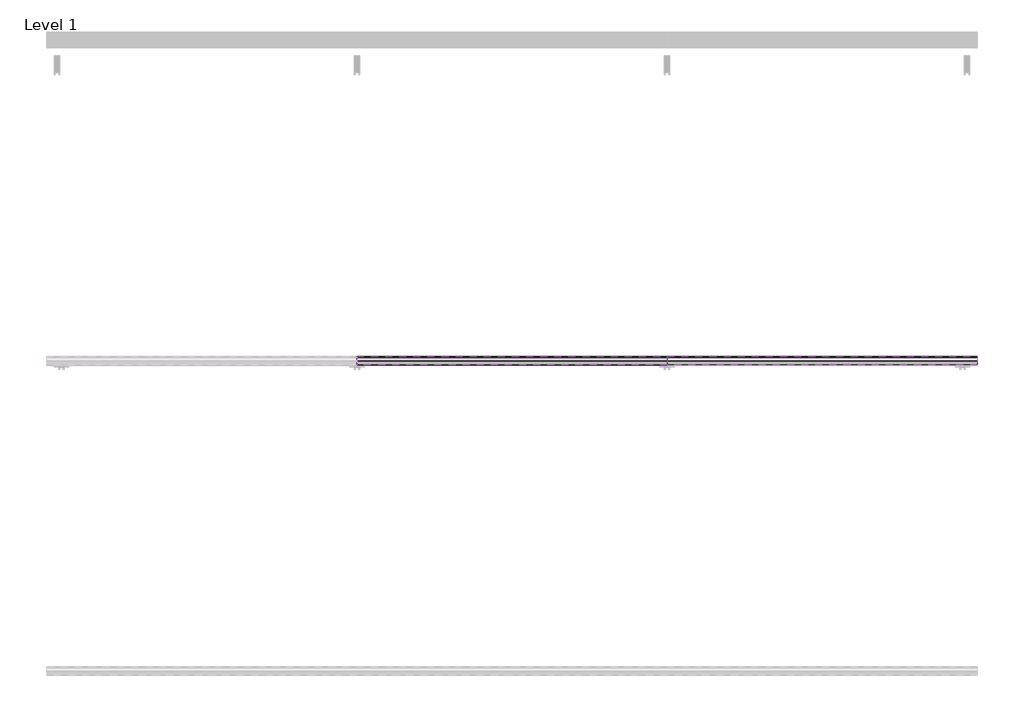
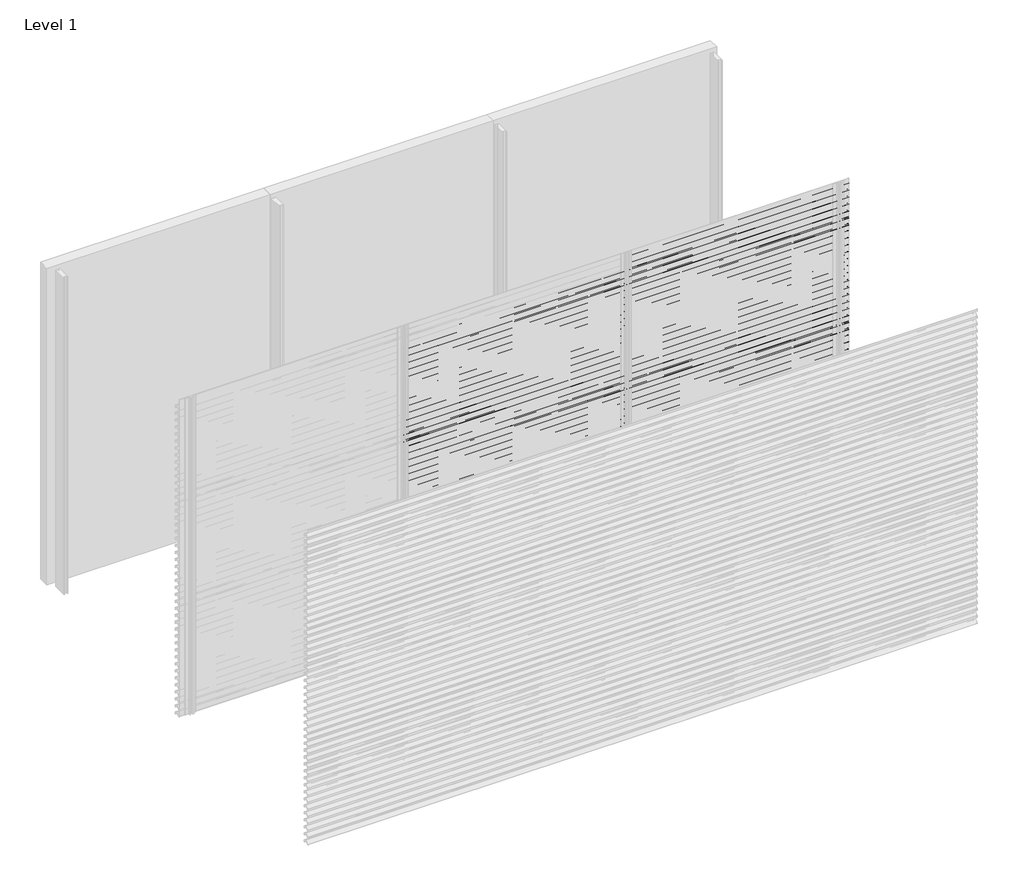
# One storey, part 4 of 27: 70 proxies.
"""IFC4 building model written with IfcOpenShell, lengths in millimetres."""

from ifc_helpers import new_model, si_unit, frame, origin, place, context, project, spatial, polyline, outline, extrude, element, save

model = new_model("IFC4")

# Units and contexts
model_context = context("Model", 3, world=origin())
ifc_project = project(units=[si_unit("LENGTHUNIT", "METRE", prefix="MILLI")], contexts=[model_context])

# Site, building, storey
site = spatial("IfcSite", under=ifc_project)
building = spatial("IfcBuilding", under=site)
storey = spatial("IfcBuildingStorey", under=building, Name="Level 1", Elevation=0.0)

# Proxies
placement = place(None, origin())
element("IfcBuildingElementProxy", 1, Name="Wall Sweeps", at=placement, inside=storey, context=model_context, shape_type="SweptSolid", body=[
    extrude(outline(polyline([(-53943.0, 2781.2), (-53943.0, 2761.5), (-53944.25, 2762.5866084), (-53944.25, 2780.4872415), (-53963.0322086, 2793.6010889), (-53995.1332975, 2761.5), (-53996.0525363, 2762.4192388), (-53964.1148087, 2794.3569665), (-53998.0, 2818.0158044), (-53998.0, 2838.0), (-53996.75, 2838.0), (-53996.75, 2818.7285629), (-53943.0, 2781.2)])), frame((2000.0, 0.0, 0.0), z_axis=(1.0, 0.0, 0.0), x_axis=(0.0, 1.0, 0.0)), (0.0, 0.0, 1.0), 2000.0),
])
element("IfcBuildingElementProxy", 2, Name="Wall Sweeps", at=placement, inside=storey, context=model_context, shape_type="SweptSolid", body=[
    extrude(outline(polyline([(-53943.0, 2715.2), (-53943.0, 2695.5), (-53944.25, 2696.5866084), (-53944.25, 2714.4872415), (-53963.0322086, 2727.6010889), (-53995.1332975, 2695.5), (-53996.0525363, 2696.4192388), (-53964.1148087, 2728.3569665), (-53998.0, 2752.0158044), (-53998.0, 2772.0), (-53996.75, 2772.0), (-53996.75, 2752.7285629), (-53943.0, 2715.2)])), frame((2000.0, 0.0, 0.0), z_axis=(1.0, 0.0, 0.0), x_axis=(0.0, 1.0, 0.0)), (0.0, 0.0, 1.0), 2000.0),
])
element("IfcBuildingElementProxy", 3, Name="Wall Sweeps", at=placement, inside=storey, context=model_context, shape_type="SweptSolid", body=[
    extrude(outline(polyline([(-53943.0, 2649.2), (-53943.0, 2629.5), (-53944.25, 2630.5866084), (-53944.25, 2648.4872415), (-53963.0322086, 2661.6010889), (-53995.1332975, 2629.5), (-53996.0525363, 2630.4192388), (-53964.1148087, 2662.3569665), (-53998.0, 2686.0158044), (-53998.0, 2706.0), (-53996.75, 2706.0), (-53996.75, 2686.7285629), (-53943.0, 2649.2)])), frame((2000.0, 0.0, 0.0), z_axis=(1.0, 0.0, 0.0), x_axis=(0.0, 1.0, 0.0)), (0.0, 0.0, 1.0), 2000.0),
])
element("IfcBuildingElementProxy", 4, Name="Wall Sweeps", at=placement, inside=storey, context=model_context, shape_type="SweptSolid", body=[
    extrude(outline(polyline([(-53943.0, 2583.2), (-53943.0, 2563.5), (-53944.25, 2564.5866084), (-53944.25, 2582.4872415), (-53963.0322086, 2595.6010889), (-53995.1332975, 2563.5), (-53996.0525363, 2564.4192388), (-53964.1148087, 2596.3569665), (-53998.0, 2620.0158044), (-53998.0, 2640.0), (-53996.75, 2640.0), (-53996.75, 2620.7285629), (-53943.0, 2583.2)])), frame((2000.0, 0.0, 0.0), z_axis=(1.0, 0.0, 0.0), x_axis=(0.0, 1.0, 0.0)), (0.0, 0.0, 1.0), 2000.0),
])
element("IfcBuildingElementProxy", 5, Name="Wall Sweeps", at=placement, inside=storey, context=model_context, shape_type="SweptSolid", body=[
    extrude(outline(polyline([(-53943.0, 2517.2), (-53943.0, 2497.5), (-53944.25, 2498.5866084), (-53944.25, 2516.4872415), (-53963.0322086, 2529.6010889), (-53995.1332975, 2497.5), (-53996.0525363, 2498.4192388), (-53964.1148087, 2530.3569665), (-53998.0, 2554.0158044), (-53998.0, 2574.0), (-53996.75, 2574.0), (-53996.75, 2554.7285629), (-53943.0, 2517.2)])), frame((2000.0, 0.0, 0.0), z_axis=(1.0, 0.0, 0.0), x_axis=(0.0, 1.0, 0.0)), (0.0, 0.0, 1.0), 2000.0),
])
element("IfcBuildingElementProxy", 6, Name="Wall Sweeps", at=placement, inside=storey, context=model_context, shape_type="SweptSolid", body=[
    extrude(outline(polyline([(-53943.0, 2451.2), (-53943.0, 2431.5), (-53944.25, 2432.5866084), (-53944.25, 2450.4872415), (-53963.0322086, 2463.6010889), (-53995.1332975, 2431.5), (-53996.0525363, 2432.4192388), (-53964.1148087, 2464.3569665), (-53998.0, 2488.0158044), (-53998.0, 2508.0), (-53996.75, 2508.0), (-53996.75, 2488.7285629), (-53943.0, 2451.2)])), frame((2000.0, 0.0, 0.0), z_axis=(1.0, 0.0, 0.0), x_axis=(0.0, 1.0, 0.0)), (0.0, 0.0, 1.0), 2000.0),
])
element("IfcBuildingElementProxy", 7, Name="Wall Sweeps", at=placement, inside=storey, context=model_context, shape_type="SweptSolid", body=[
    extrude(outline(polyline([(-53943.0, 2385.2), (-53943.0, 2365.5), (-53944.25, 2366.5866084), (-53944.25, 2384.4872415), (-53963.0322086, 2397.6010889), (-53995.1332975, 2365.5), (-53996.0525363, 2366.4192388), (-53964.1148087, 2398.3569665), (-53998.0, 2422.0158044), (-53998.0, 2442.0), (-53996.75, 2442.0), (-53996.75, 2422.7285629), (-53943.0, 2385.2)])), frame((2000.0, 0.0, 0.0), z_axis=(1.0, 0.0, 0.0), x_axis=(0.0, 1.0, 0.0)), (0.0, 0.0, 1.0), 2000.0),
])
element("IfcBuildingElementProxy", 8, Name="Wall Sweeps", at=placement, inside=storey, context=model_context, shape_type="SweptSolid", body=[
    extrude(outline(polyline([(-53943.0, 2319.2), (-53943.0, 2299.5), (-53944.25, 2300.5866084), (-53944.25, 2318.4872415), (-53963.0322086, 2331.6010889), (-53995.1332975, 2299.5), (-53996.0525363, 2300.4192388), (-53964.1148087, 2332.3569665), (-53998.0, 2356.0158044), (-53998.0, 2376.0), (-53996.75, 2376.0), (-53996.75, 2356.7285629), (-53943.0, 2319.2)])), frame((2000.0, 0.0, 0.0), z_axis=(1.0, 0.0, 0.0), x_axis=(0.0, 1.0, 0.0)), (0.0, 0.0, 1.0), 2000.0),
])
element("IfcBuildingElementProxy", 9, Name="Wall Sweeps", at=placement, inside=storey, context=model_context, shape_type="SweptSolid", body=[
    extrude(outline(polyline([(-53943.0, 2253.2), (-53943.0, 2233.5), (-53944.25, 2234.5866084), (-53944.25, 2252.4872415), (-53963.0322086, 2265.6010889), (-53995.1332975, 2233.5), (-53996.0525363, 2234.4192388), (-53964.1148087, 2266.3569665), (-53998.0, 2290.0158044), (-53998.0, 2310.0), (-53996.75, 2310.0), (-53996.75, 2290.7285629), (-53943.0, 2253.2)])), frame((2000.0, 0.0, 0.0), z_axis=(1.0, 0.0, 0.0), x_axis=(0.0, 1.0, 0.0)), (0.0, 0.0, 1.0), 2000.0),
])
element("IfcBuildingElementProxy", 10, Name="Wall Sweeps", at=placement, inside=storey, context=model_context, shape_type="SweptSolid", body=[
    extrude(outline(polyline([(-53943.0, 2187.2), (-53943.0, 2167.5), (-53944.25, 2168.5866084), (-53944.25, 2186.4872415), (-53963.0322086, 2199.6010889), (-53995.1332975, 2167.5), (-53996.0525363, 2168.4192388), (-53964.1148087, 2200.3569665), (-53998.0, 2224.0158044), (-53998.0, 2244.0), (-53996.75, 2244.0), (-53996.75, 2224.7285629), (-53943.0, 2187.2)])), frame((2000.0, 0.0, 0.0), z_axis=(1.0, 0.0, 0.0), x_axis=(0.0, 1.0, 0.0)), (0.0, 0.0, 1.0), 2000.0),
])
element("IfcBuildingElementProxy", 11, Name="Wall Sweeps", at=placement, inside=storey, context=model_context, shape_type="SweptSolid", body=[
    extrude(outline(polyline([(-53943.0, 2121.2), (-53943.0, 2101.5), (-53944.25, 2102.5866084), (-53944.25, 2120.4872415), (-53963.0322086, 2133.6010889), (-53995.1332975, 2101.5), (-53996.0525363, 2102.4192388), (-53964.1148087, 2134.3569665), (-53998.0, 2158.0158044), (-53998.0, 2178.0), (-53996.75, 2178.0), (-53996.75, 2158.7285629), (-53943.0, 2121.2)])), frame((2000.0, 0.0, 0.0), z_axis=(1.0, 0.0, 0.0), x_axis=(0.0, 1.0, 0.0)), (0.0, 0.0, 1.0), 2000.0),
])
element("IfcBuildingElementProxy", 12, Name="Wall Sweeps", at=placement, inside=storey, context=model_context, shape_type="SweptSolid", body=[
    extrude(outline(polyline([(-53943.0, 2055.2), (-53943.0, 2035.5), (-53944.25, 2036.5866084), (-53944.25, 2054.4872415), (-53963.0322086, 2067.6010889), (-53995.1332975, 2035.5), (-53996.0525363, 2036.4192388), (-53964.1148087, 2068.3569665), (-53998.0, 2092.0158044), (-53998.0, 2112.0), (-53996.75, 2112.0), (-53996.75, 2092.7285629), (-53943.0, 2055.2)])), frame((2000.0, 0.0, 0.0), z_axis=(1.0, 0.0, 0.0), x_axis=(0.0, 1.0, 0.0)), (0.0, 0.0, 1.0), 2000.0),
])
element("IfcBuildingElementProxy", 13, Name="Wall Sweeps", at=placement, inside=storey, context=model_context, shape_type="SweptSolid", body=[
    extrude(outline(polyline([(-53943.0, 1989.2), (-53943.0, 1969.5), (-53944.25, 1970.5866084), (-53944.25, 1988.4872415), (-53963.0322086, 2001.6010889), (-53995.1332975, 1969.5), (-53996.0525363, 1970.4192388), (-53964.1148087, 2002.3569665), (-53998.0, 2026.0158044), (-53998.0, 2046.0), (-53996.75, 2046.0), (-53996.75, 2026.7285629), (-53943.0, 1989.2)])), frame((2000.0, 0.0, 0.0), z_axis=(1.0, 0.0, 0.0), x_axis=(0.0, 1.0, 0.0)), (0.0, 0.0, 1.0), 2000.0),
])
element("IfcBuildingElementProxy", 14, Name="Wall Sweeps", at=placement, inside=storey, context=model_context, shape_type="SweptSolid", body=[
    extrude(outline(polyline([(-53943.0, 1923.2), (-53943.0, 1903.5), (-53944.25, 1904.5866084), (-53944.25, 1922.4872415), (-53963.0322086, 1935.6010889), (-53995.1332975, 1903.5), (-53996.0525363, 1904.4192388), (-53964.1148087, 1936.3569665), (-53998.0, 1960.0158044), (-53998.0, 1980.0), (-53996.75, 1980.0), (-53996.75, 1960.7285629), (-53943.0, 1923.2)])), frame((2000.0, 0.0, 0.0), z_axis=(1.0, 0.0, 0.0), x_axis=(0.0, 1.0, 0.0)), (0.0, 0.0, 1.0), 2000.0),
])
element("IfcBuildingElementProxy", 15, Name="Wall Sweeps", at=placement, inside=storey, context=model_context, shape_type="SweptSolid", body=[
    extrude(outline(polyline([(-53943.0, 1857.2), (-53943.0, 1837.5), (-53944.25, 1838.5866084), (-53944.25, 1856.4872415), (-53963.0322086, 1869.6010889), (-53995.1332975, 1837.5), (-53996.0525363, 1838.4192388), (-53964.1148087, 1870.3569665), (-53998.0, 1894.0158044), (-53998.0, 1914.0), (-53996.75, 1914.0), (-53996.75, 1894.7285629), (-53943.0, 1857.2)])), frame((2000.0, 0.0, 0.0), z_axis=(1.0, 0.0, 0.0), x_axis=(0.0, 1.0, 0.0)), (0.0, 0.0, 1.0), 2000.0),
])
element("IfcBuildingElementProxy", 16, Name="Wall Sweeps", at=placement, inside=storey, context=model_context, shape_type="SweptSolid", body=[
    extrude(outline(polyline([(-53943.0, 1791.2), (-53943.0, 1771.5), (-53944.25, 1772.5866084), (-53944.25, 1790.4872415), (-53963.0322086, 1803.6010889), (-53995.1332975, 1771.5), (-53996.0525363, 1772.4192388), (-53964.1148087, 1804.3569665), (-53998.0, 1828.0158044), (-53998.0, 1848.0), (-53996.75, 1848.0), (-53996.75, 1828.7285629), (-53943.0, 1791.2)])), frame((2000.0, 0.0, 0.0), z_axis=(1.0, 0.0, 0.0), x_axis=(0.0, 1.0, 0.0)), (0.0, 0.0, 1.0), 2000.0),
])
element("IfcBuildingElementProxy", 17, Name="Wall Sweeps", at=placement, inside=storey, context=model_context, shape_type="SweptSolid", body=[
    extrude(outline(polyline([(-53943.0, 1725.2), (-53943.0, 1705.5), (-53944.25, 1706.5866084), (-53944.25, 1724.4872415), (-53963.0322086, 1737.6010889), (-53995.1332975, 1705.5), (-53996.0525363, 1706.4192388), (-53964.1148087, 1738.3569665), (-53998.0, 1762.0158044), (-53998.0, 1782.0), (-53996.75, 1782.0), (-53996.75, 1762.7285629), (-53943.0, 1725.2)])), frame((2000.0, 0.0, 0.0), z_axis=(1.0, 0.0, 0.0), x_axis=(0.0, 1.0, 0.0)), (0.0, 0.0, 1.0), 2000.0),
])
element("IfcBuildingElementProxy", 18, Name="Wall Sweeps", at=placement, inside=storey, context=model_context, shape_type="SweptSolid", body=[
    extrude(outline(polyline([(-53943.0, 1659.2), (-53943.0, 1639.5), (-53944.25, 1640.5866084), (-53944.25, 1658.4872415), (-53963.0322086, 1671.6010889), (-53995.1332975, 1639.5), (-53996.0525363, 1640.4192388), (-53964.1148087, 1672.3569665), (-53998.0, 1696.0158044), (-53998.0, 1716.0), (-53996.75, 1716.0), (-53996.75, 1696.7285629), (-53943.0, 1659.2)])), frame((2000.0, 0.0, 0.0), z_axis=(1.0, 0.0, 0.0), x_axis=(0.0, 1.0, 0.0)), (0.0, 0.0, 1.0), 2000.0),
])
element("IfcBuildingElementProxy", 19, Name="Wall Sweeps", at=placement, inside=storey, context=model_context, shape_type="SweptSolid", body=[
    extrude(outline(polyline([(-53943.0, 1593.2), (-53943.0, 1573.5), (-53944.25, 1574.5866084), (-53944.25, 1592.4872415), (-53963.0322086, 1605.6010889), (-53995.1332975, 1573.5), (-53996.0525363, 1574.4192388), (-53964.1148087, 1606.3569665), (-53998.0, 1630.0158044), (-53998.0, 1650.0), (-53996.75, 1650.0), (-53996.75, 1630.7285629), (-53943.0, 1593.2)])), frame((2000.0, 0.0, 0.0), z_axis=(1.0, 0.0, 0.0), x_axis=(0.0, 1.0, 0.0)), (0.0, 0.0, 1.0), 2000.0),
])
element("IfcBuildingElementProxy", 20, Name="Wall Sweeps", at=placement, inside=storey, context=model_context, shape_type="SweptSolid", body=[
    extrude(outline(polyline([(-53943.0, 1527.2), (-53943.0, 1507.5), (-53944.25, 1508.5866084), (-53944.25, 1526.4872415), (-53963.0322086, 1539.6010889), (-53995.1332975, 1507.5), (-53996.0525363, 1508.4192388), (-53964.1148087, 1540.3569665), (-53998.0, 1564.0158044), (-53998.0, 1584.0), (-53996.75, 1584.0), (-53996.75, 1564.7285629), (-53943.0, 1527.2)])), frame((2000.0, 0.0, 0.0), z_axis=(1.0, 0.0, 0.0), x_axis=(0.0, 1.0, 0.0)), (0.0, 0.0, 1.0), 2000.0),
])
element("IfcBuildingElementProxy", 21, Name="Wall Sweeps", at=placement, inside=storey, context=model_context, shape_type="SweptSolid", body=[
    extrude(outline(polyline([(-53943.0, 1461.2), (-53943.0, 1441.5), (-53944.25, 1442.5866084), (-53944.25, 1460.4872415), (-53963.0322086, 1473.6010889), (-53995.1332975, 1441.5), (-53996.0525363, 1442.4192388), (-53964.1148087, 1474.3569665), (-53998.0, 1498.0158044), (-53998.0, 1518.0), (-53996.75, 1518.0), (-53996.75, 1498.7285629), (-53943.0, 1461.2)])), frame((2000.0, 0.0, 0.0), z_axis=(1.0, 0.0, 0.0), x_axis=(0.0, 1.0, 0.0)), (0.0, 0.0, 1.0), 2000.0),
])
element("IfcBuildingElementProxy", 22, Name="Wall Sweeps", at=placement, inside=storey, context=model_context, shape_type="SweptSolid", body=[
    extrude(outline(polyline([(-53943.0, 1395.2), (-53943.0, 1375.5), (-53944.25, 1376.5866084), (-53944.25, 1394.4872415), (-53963.0322086, 1407.6010889), (-53995.1332975, 1375.5), (-53996.0525363, 1376.4192388), (-53964.1148087, 1408.3569665), (-53998.0, 1432.0158044), (-53998.0, 1452.0), (-53996.75, 1452.0), (-53996.75, 1432.7285629), (-53943.0, 1395.2)])), frame((2000.0, 0.0, 0.0), z_axis=(1.0, 0.0, 0.0), x_axis=(0.0, 1.0, 0.0)), (0.0, 0.0, 1.0), 2000.0),
])
element("IfcBuildingElementProxy", 23, Name="Wall Sweeps", at=placement, inside=storey, context=model_context, shape_type="SweptSolid", body=[
    extrude(outline(polyline([(-53943.0, 1329.2), (-53943.0, 1309.5), (-53944.25, 1310.5866084), (-53944.25, 1328.4872415), (-53963.0322086, 1341.6010889), (-53995.1332975, 1309.5), (-53996.0525363, 1310.4192388), (-53964.1148087, 1342.3569665), (-53998.0, 1366.0158044), (-53998.0, 1386.0), (-53996.75, 1386.0), (-53996.75, 1366.7285629), (-53943.0, 1329.2)])), frame((2000.0, 0.0, 0.0), z_axis=(1.0, 0.0, 0.0), x_axis=(0.0, 1.0, 0.0)), (0.0, 0.0, 1.0), 2000.0),
])
element("IfcBuildingElementProxy", 24, Name="Wall Sweeps", at=placement, inside=storey, context=model_context, shape_type="SweptSolid", body=[
    extrude(outline(polyline([(-53943.0, 1263.2), (-53943.0, 1243.5), (-53944.25, 1244.5866084), (-53944.25, 1262.4872415), (-53963.0322086, 1275.6010889), (-53995.1332975, 1243.5), (-53996.0525363, 1244.4192388), (-53964.1148087, 1276.3569665), (-53998.0, 1300.0158044), (-53998.0, 1320.0), (-53996.75, 1320.0), (-53996.75, 1300.7285629), (-53943.0, 1263.2)])), frame((2000.0, 0.0, 0.0), z_axis=(1.0, 0.0, 0.0), x_axis=(0.0, 1.0, 0.0)), (0.0, 0.0, 1.0), 2000.0),
])
element("IfcBuildingElementProxy", 25, Name="Wall Sweeps", at=placement, inside=storey, context=model_context, shape_type="SweptSolid", body=[
    extrude(outline(polyline([(-53943.0, 1197.2), (-53943.0, 1177.5), (-53944.25, 1178.5866084), (-53944.25, 1196.4872415), (-53963.0322086, 1209.6010889), (-53995.1332975, 1177.5), (-53996.0525363, 1178.4192388), (-53964.1148087, 1210.3569665), (-53998.0, 1234.0158044), (-53998.0, 1254.0), (-53996.75, 1254.0), (-53996.75, 1234.7285629), (-53943.0, 1197.2)])), frame((2000.0, 0.0, 0.0), z_axis=(1.0, 0.0, 0.0), x_axis=(0.0, 1.0, 0.0)), (0.0, 0.0, 1.0), 2000.0),
])
element("IfcBuildingElementProxy", 26, Name="Wall Sweeps", at=placement, inside=storey, context=model_context, shape_type="SweptSolid", body=[
    extrude(outline(polyline([(-53943.0, 1131.2), (-53943.0, 1111.5), (-53944.25, 1112.5866084), (-53944.25, 1130.4872415), (-53963.0322086, 1143.6010889), (-53995.1332975, 1111.5), (-53996.0525363, 1112.4192388), (-53964.1148087, 1144.3569665), (-53998.0, 1168.0158044), (-53998.0, 1188.0), (-53996.75, 1188.0), (-53996.75, 1168.7285629), (-53943.0, 1131.2)])), frame((2000.0, 0.0, 0.0), z_axis=(1.0, 0.0, 0.0), x_axis=(0.0, 1.0, 0.0)), (0.0, 0.0, 1.0), 2000.0),
])
element("IfcBuildingElementProxy", 27, Name="Wall Sweeps", at=placement, inside=storey, context=model_context, shape_type="SweptSolid", body=[
    extrude(outline(polyline([(-53943.0, 1065.2), (-53943.0, 1045.5), (-53944.25, 1046.5866084), (-53944.25, 1064.4872415), (-53963.0322086, 1077.6010889), (-53995.1332975, 1045.5), (-53996.0525363, 1046.4192388), (-53964.1148087, 1078.3569665), (-53998.0, 1102.0158044), (-53998.0, 1122.0), (-53996.75, 1122.0), (-53996.75, 1102.7285629), (-53943.0, 1065.2)])), frame((2000.0, 0.0, 0.0), z_axis=(1.0, 0.0, 0.0), x_axis=(0.0, 1.0, 0.0)), (0.0, 0.0, 1.0), 2000.0),
])
element("IfcBuildingElementProxy", 28, Name="Wall Sweeps", at=placement, inside=storey, context=model_context, shape_type="SweptSolid", body=[
    extrude(outline(polyline([(-53943.0, 999.2), (-53943.0, 979.5), (-53944.25, 980.5866084), (-53944.25, 998.4872415), (-53963.0322086, 1011.6010889), (-53995.1332975, 979.5), (-53996.0525363, 980.4192388), (-53964.1148087, 1012.3569665), (-53998.0, 1036.0158044), (-53998.0, 1056.0), (-53996.75, 1056.0), (-53996.75, 1036.7285629), (-53943.0, 999.2)])), frame((2000.0, 0.0, 0.0), z_axis=(1.0, 0.0, 0.0), x_axis=(0.0, 1.0, 0.0)), (0.0, 0.0, 1.0), 2000.0),
])
element("IfcBuildingElementProxy", 29, Name="Wall Sweeps", at=placement, inside=storey, context=model_context, shape_type="SweptSolid", body=[
    extrude(outline(polyline([(-53943.0, 933.2), (-53943.0, 913.5), (-53944.25, 914.5866084), (-53944.25, 932.4872415), (-53963.0322086, 945.6010889), (-53995.1332975, 913.5), (-53996.0525363, 914.4192388), (-53964.1148087, 946.3569665), (-53998.0, 970.0158044), (-53998.0, 990.0), (-53996.75, 990.0), (-53996.75, 970.7285629), (-53943.0, 933.2)])), frame((2000.0, 0.0, 0.0), z_axis=(1.0, 0.0, 0.0), x_axis=(0.0, 1.0, 0.0)), (0.0, 0.0, 1.0), 2000.0),
])
element("IfcBuildingElementProxy", 30, Name="Wall Sweeps", at=placement, inside=storey, context=model_context, shape_type="SweptSolid", body=[
    extrude(outline(polyline([(-53943.0, 867.2), (-53943.0, 847.5), (-53944.25, 848.5866084), (-53944.25, 866.4872415), (-53963.0322086, 879.6010889), (-53995.1332975, 847.5), (-53996.0525363, 848.4192388), (-53964.1148087, 880.3569665), (-53998.0, 904.0158044), (-53998.0, 924.0), (-53996.75, 924.0), (-53996.75, 904.7285629), (-53943.0, 867.2)])), frame((2000.0, 0.0, 0.0), z_axis=(1.0, 0.0, 0.0), x_axis=(0.0, 1.0, 0.0)), (0.0, 0.0, 1.0), 2000.0),
])
element("IfcBuildingElementProxy", 31, Name="Wall Sweeps", at=placement, inside=storey, context=model_context, shape_type="SweptSolid", body=[
    extrude(outline(polyline([(-53943.0, 801.2), (-53943.0, 781.5), (-53944.25, 782.5866084), (-53944.25, 800.4872415), (-53963.0322086, 813.6010889), (-53995.1332975, 781.5), (-53996.0525363, 782.4192388), (-53964.1148087, 814.3569665), (-53998.0, 838.0158044), (-53998.0, 858.0), (-53996.75, 858.0), (-53996.75, 838.7285629), (-53943.0, 801.2)])), frame((2000.0, 0.0, 0.0), z_axis=(1.0, 0.0, 0.0), x_axis=(0.0, 1.0, 0.0)), (0.0, 0.0, 1.0), 2000.0),
])
element("IfcBuildingElementProxy", 32, Name="Wall Sweeps", at=placement, inside=storey, context=model_context, shape_type="SweptSolid", body=[
    extrude(outline(polyline([(-53943.0, 735.2), (-53943.0, 715.5), (-53944.25, 716.5866084), (-53944.25, 734.4872415), (-53963.0322086, 747.6010889), (-53995.1332975, 715.5), (-53996.0525363, 716.4192388), (-53964.1148087, 748.3569665), (-53998.0, 772.0158044), (-53998.0, 792.0), (-53996.75, 792.0), (-53996.75, 772.7285629), (-53943.0, 735.2)])), frame((2000.0, 0.0, 0.0), z_axis=(1.0, 0.0, 0.0), x_axis=(0.0, 1.0, 0.0)), (0.0, 0.0, 1.0), 2000.0),
])
element("IfcBuildingElementProxy", 33, Name="Wall Sweeps", at=placement, inside=storey, context=model_context, shape_type="SweptSolid", body=[
    extrude(outline(polyline([(-53943.0, 669.2), (-53943.0, 649.5), (-53944.25, 650.5866084), (-53944.25, 668.4872415), (-53963.0322086, 681.6010889), (-53995.1332975, 649.5), (-53996.0525363, 650.4192388), (-53964.1148087, 682.3569665), (-53998.0, 706.0158044), (-53998.0, 726.0), (-53996.75, 726.0), (-53996.75, 706.7285629), (-53943.0, 669.2)])), frame((2000.0, 0.0, 0.0), z_axis=(1.0, 0.0, 0.0), x_axis=(0.0, 1.0, 0.0)), (0.0, 0.0, 1.0), 2000.0),
])
element("IfcBuildingElementProxy", 34, Name="Wall Sweeps", at=placement, inside=storey, context=model_context, shape_type="SweptSolid", body=[
    extrude(outline(polyline([(-53943.0, 603.2), (-53943.0, 583.5), (-53944.25, 584.5866084), (-53944.25, 602.4872415), (-53963.0322086, 615.6010889), (-53995.1332975, 583.5), (-53996.0525363, 584.4192388), (-53964.1148087, 616.3569665), (-53998.0, 640.0158044), (-53998.0, 660.0), (-53996.75, 660.0), (-53996.75, 640.7285629), (-53943.0, 603.2)])), frame((2000.0, 0.0, 0.0), z_axis=(1.0, 0.0, 0.0), x_axis=(0.0, 1.0, 0.0)), (0.0, 0.0, 1.0), 2000.0),
])
element("IfcBuildingElementProxy", 35, Name="Wall Sweeps", at=placement, inside=storey, context=model_context, shape_type="SweptSolid", body=[
    extrude(outline(polyline([(-53943.0, 537.2), (-53943.0, 517.5), (-53944.25, 518.5866084), (-53944.25, 536.4872415), (-53963.0322086, 549.6010889), (-53995.1332975, 517.5), (-53996.0525363, 518.4192388), (-53964.1148087, 550.3569665), (-53998.0, 574.0158044), (-53998.0, 594.0), (-53996.75, 594.0), (-53996.75, 574.7285629), (-53943.0, 537.2)])), frame((2000.0, 0.0, 0.0), z_axis=(1.0, 0.0, 0.0), x_axis=(0.0, 1.0, 0.0)), (0.0, 0.0, 1.0), 2000.0),
])
element("IfcBuildingElementProxy", 36, Name="Wall Sweeps", at=placement, inside=storey, context=model_context, shape_type="SweptSolid", body=[
    extrude(outline(polyline([(-53943.0, 471.2), (-53943.0, 451.5), (-53944.25, 452.5866084), (-53944.25, 470.4872415), (-53963.0322086, 483.6010889), (-53995.1332975, 451.5), (-53996.0525363, 452.4192388), (-53964.1148087, 484.3569665), (-53998.0, 508.0158044), (-53998.0, 528.0), (-53996.75, 528.0), (-53996.75, 508.7285629), (-53943.0, 471.2)])), frame((2000.0, 0.0, 0.0), z_axis=(1.0, 0.0, 0.0), x_axis=(0.0, 1.0, 0.0)), (0.0, 0.0, 1.0), 2000.0),
])
element("IfcBuildingElementProxy", 37, Name="Wall Sweeps", at=placement, inside=storey, context=model_context, shape_type="SweptSolid", body=[
    extrude(outline(polyline([(-53943.0, 405.2), (-53943.0, 385.5), (-53944.25, 386.5866084), (-53944.25, 404.4872415), (-53963.0322086, 417.6010889), (-53995.1332975, 385.5), (-53996.0525363, 386.4192388), (-53964.1148087, 418.3569665), (-53998.0, 442.0158044), (-53998.0, 462.0), (-53996.75, 462.0), (-53996.75, 442.7285629), (-53943.0, 405.2)])), frame((2000.0, 0.0, 0.0), z_axis=(1.0, 0.0, 0.0), x_axis=(0.0, 1.0, 0.0)), (0.0, 0.0, 1.0), 2000.0),
])
element("IfcBuildingElementProxy", 38, Name="Wall Sweeps", at=placement, inside=storey, context=model_context, shape_type="SweptSolid", body=[
    extrude(outline(polyline([(-53943.0, 339.2), (-53943.0, 319.5), (-53944.25, 320.5866084), (-53944.25, 338.4872415), (-53963.0322086, 351.6010889), (-53995.1332975, 319.5), (-53996.0525363, 320.4192388), (-53964.1148087, 352.3569665), (-53998.0, 376.0158044), (-53998.0, 396.0), (-53996.75, 396.0), (-53996.75, 376.7285629), (-53943.0, 339.2)])), frame((2000.0, 0.0, 0.0), z_axis=(1.0, 0.0, 0.0), x_axis=(0.0, 1.0, 0.0)), (0.0, 0.0, 1.0), 2000.0),
])
element("IfcBuildingElementProxy", 39, Name="Wall Sweeps", at=placement, inside=storey, context=model_context, shape_type="SweptSolid", body=[
    extrude(outline(polyline([(-53943.0, 273.2), (-53943.0, 253.5), (-53944.25, 254.5866084), (-53944.25, 272.4872415), (-53963.0322086, 285.6010889), (-53995.1332975, 253.5), (-53996.0525363, 254.4192388), (-53964.1148087, 286.3569665), (-53998.0, 310.0158044), (-53998.0, 330.0), (-53996.75, 330.0), (-53996.75, 310.7285629), (-53943.0, 273.2)])), frame((2000.0, 0.0, 0.0), z_axis=(1.0, 0.0, 0.0), x_axis=(0.0, 1.0, 0.0)), (0.0, 0.0, 1.0), 2000.0),
])
element("IfcBuildingElementProxy", 40, Name="Wall Sweeps", at=placement, inside=storey, context=model_context, shape_type="SweptSolid", body=[
    extrude(outline(polyline([(-53943.0, 207.2), (-53943.0, 187.5), (-53944.25, 188.5866084), (-53944.25, 206.4872415), (-53963.0322086, 219.6010889), (-53995.1332975, 187.5), (-53996.0525363, 188.4192388), (-53964.1148087, 220.3569665), (-53998.0, 244.0158044), (-53998.0, 264.0), (-53996.75, 264.0), (-53996.75, 244.7285629), (-53943.0, 207.2)])), frame((2000.0, 0.0, 0.0), z_axis=(1.0, 0.0, 0.0), x_axis=(0.0, 1.0, 0.0)), (0.0, 0.0, 1.0), 2000.0),
])
element("IfcBuildingElementProxy", 41, Name="Wall Sweeps", at=placement, inside=storey, context=model_context, shape_type="SweptSolid", body=[
    extrude(outline(polyline([(-53943.0, 141.2), (-53943.0, 121.5), (-53944.25, 122.5866084), (-53944.25, 140.4872415), (-53963.0322086, 153.6010889), (-53995.1332975, 121.5), (-53996.0525363, 122.4192388), (-53964.1148087, 154.3569665), (-53998.0, 178.0158044), (-53998.0, 198.0), (-53996.75, 198.0), (-53996.75, 178.7285629), (-53943.0, 141.2)])), frame((2000.0, 0.0, 0.0), z_axis=(1.0, 0.0, 0.0), x_axis=(0.0, 1.0, 0.0)), (0.0, 0.0, 1.0), 2000.0),
])
element("IfcBuildingElementProxy", 42, Name="Wall Sweeps", at=placement, inside=storey, context=model_context, shape_type="SweptSolid", body=[
    extrude(outline(polyline([(-53943.0, 75.2), (-53943.0, 55.5), (-53944.25, 56.5866084), (-53944.25, 74.4872415), (-53963.0322086, 87.6010889), (-53995.1332975, 55.5), (-53996.0525363, 56.4192388), (-53964.1148087, 88.3569665), (-53998.0, 112.0158044), (-53998.0, 132.0), (-53996.75, 132.0), (-53996.75, 112.7285629), (-53943.0, 75.2)])), frame((2000.0, 0.0, 0.0), z_axis=(1.0, 0.0, 0.0), x_axis=(0.0, 1.0, 0.0)), (0.0, 0.0, 1.0), 2000.0),
])
element("IfcBuildingElementProxy", 43, Name="Wall Sweeps", at=placement, inside=storey, context=model_context, shape_type="SweptSolid", body=[
    extrude(outline(polyline([(-53943.0, 9.2), (-53943.0, -10.5), (-53944.25, -9.4133916), (-53944.25, 8.4872415), (-53963.0322086, 21.6010889), (-53995.1332975, -10.5), (-53996.0525363, -9.5807612), (-53964.1148087, 22.3569665), (-53998.0, 46.0158044), (-53998.0, 66.0), (-53996.75, 66.0), (-53996.75, 46.7285629), (-53943.0, 9.2)])), frame((2000.0, 0.0, 0.0), z_axis=(1.0, 0.0, 0.0), x_axis=(0.0, 1.0, 0.0)), (0.0, 0.0, 1.0), 2000.0),
])
element("IfcBuildingElementProxy", 44, Name="Wall Sweeps", at=placement, inside=storey, context=model_context, shape_type="SweptSolid", body=[
    extrude(outline(polyline([(-53943.0, 2913.2), (-53943.0, 2893.5), (-53944.25, 2894.5866084), (-53944.25, 2912.4872415), (-53963.0322086, 2925.6010889), (-53995.1332975, 2893.5), (-53996.0525363, 2894.4192388), (-53964.1148087, 2926.3569665), (-53998.0, 2950.0158044), (-53998.0, 2970.0), (-53996.75, 2970.0), (-53996.75, 2950.7285629), (-53943.0, 2913.2)])), frame((4000.0, 0.0, 0.0), z_axis=(1.0, 0.0, 0.0), x_axis=(0.0, 1.0, 0.0)), (0.0, 0.0, 1.0), 2000.0),
])
element("IfcBuildingElementProxy", 45, Name="Wall Sweeps", at=placement, inside=storey, context=model_context, shape_type="SweptSolid", body=[
    extrude(outline(polyline([(-53943.0, 2847.2), (-53943.0, 2827.5), (-53944.25, 2828.5866084), (-53944.25, 2846.4872415), (-53963.0322086, 2859.6010889), (-53995.1332975, 2827.5), (-53996.0525363, 2828.4192388), (-53964.1148087, 2860.3569665), (-53998.0, 2884.0158044), (-53998.0, 2904.0), (-53996.75, 2904.0), (-53996.75, 2884.7285629), (-53943.0, 2847.2)])), frame((4000.0, 0.0, 0.0), z_axis=(1.0, 0.0, 0.0), x_axis=(0.0, 1.0, 0.0)), (0.0, 0.0, 1.0), 2000.0),
])
element("IfcBuildingElementProxy", 46, Name="Wall Sweeps", at=placement, inside=storey, context=model_context, shape_type="SweptSolid", body=[
    extrude(outline(polyline([(-53943.0, 2781.2), (-53943.0, 2761.5), (-53944.25, 2762.5866084), (-53944.25, 2780.4872415), (-53963.0322086, 2793.6010889), (-53995.1332975, 2761.5), (-53996.0525363, 2762.4192388), (-53964.1148087, 2794.3569665), (-53998.0, 2818.0158044), (-53998.0, 2838.0), (-53996.75, 2838.0), (-53996.75, 2818.7285629), (-53943.0, 2781.2)])), frame((4000.0, 0.0, 0.0), z_axis=(1.0, 0.0, 0.0), x_axis=(0.0, 1.0, 0.0)), (0.0, 0.0, 1.0), 2000.0),
])
element("IfcBuildingElementProxy", 47, Name="Wall Sweeps", at=placement, inside=storey, context=model_context, shape_type="SweptSolid", body=[
    extrude(outline(polyline([(-53943.0, 2715.2), (-53943.0, 2695.5), (-53944.25, 2696.5866084), (-53944.25, 2714.4872415), (-53963.0322086, 2727.6010889), (-53995.1332975, 2695.5), (-53996.0525363, 2696.4192388), (-53964.1148087, 2728.3569665), (-53998.0, 2752.0158044), (-53998.0, 2772.0), (-53996.75, 2772.0), (-53996.75, 2752.7285629), (-53943.0, 2715.2)])), frame((4000.0, 0.0, 0.0), z_axis=(1.0, 0.0, 0.0), x_axis=(0.0, 1.0, 0.0)), (0.0, 0.0, 1.0), 2000.0),
])
element("IfcBuildingElementProxy", 48, Name="Wall Sweeps", at=placement, inside=storey, context=model_context, shape_type="SweptSolid", body=[
    extrude(outline(polyline([(-53943.0, 2649.2), (-53943.0, 2629.5), (-53944.25, 2630.5866084), (-53944.25, 2648.4872415), (-53963.0322086, 2661.6010889), (-53995.1332975, 2629.5), (-53996.0525363, 2630.4192388), (-53964.1148087, 2662.3569665), (-53998.0, 2686.0158044), (-53998.0, 2706.0), (-53996.75, 2706.0), (-53996.75, 2686.7285629), (-53943.0, 2649.2)])), frame((4000.0, 0.0, 0.0), z_axis=(1.0, 0.0, 0.0), x_axis=(0.0, 1.0, 0.0)), (0.0, 0.0, 1.0), 2000.0),
])
element("IfcBuildingElementProxy", 49, Name="Wall Sweeps", at=placement, inside=storey, context=model_context, shape_type="SweptSolid", body=[
    extrude(outline(polyline([(-53943.0, 2583.2), (-53943.0, 2563.5), (-53944.25, 2564.5866084), (-53944.25, 2582.4872415), (-53963.0322086, 2595.6010889), (-53995.1332975, 2563.5), (-53996.0525363, 2564.4192388), (-53964.1148087, 2596.3569665), (-53998.0, 2620.0158044), (-53998.0, 2640.0), (-53996.75, 2640.0), (-53996.75, 2620.7285629), (-53943.0, 2583.2)])), frame((4000.0, 0.0, 0.0), z_axis=(1.0, 0.0, 0.0), x_axis=(0.0, 1.0, 0.0)), (0.0, 0.0, 1.0), 2000.0),
])
element("IfcBuildingElementProxy", 50, Name="Wall Sweeps", at=placement, inside=storey, context=model_context, shape_type="SweptSolid", body=[
    extrude(outline(polyline([(-53943.0, 2517.2), (-53943.0, 2497.5), (-53944.25, 2498.5866084), (-53944.25, 2516.4872415), (-53963.0322086, 2529.6010889), (-53995.1332975, 2497.5), (-53996.0525363, 2498.4192388), (-53964.1148087, 2530.3569665), (-53998.0, 2554.0158044), (-53998.0, 2574.0), (-53996.75, 2574.0), (-53996.75, 2554.7285629), (-53943.0, 2517.2)])), frame((4000.0, 0.0, 0.0), z_axis=(1.0, 0.0, 0.0), x_axis=(0.0, 1.0, 0.0)), (0.0, 0.0, 1.0), 2000.0),
])
element("IfcBuildingElementProxy", 51, Name="Wall Sweeps", at=placement, inside=storey, context=model_context, shape_type="SweptSolid", body=[
    extrude(outline(polyline([(-53943.0, 2451.2), (-53943.0, 2431.5), (-53944.25, 2432.5866084), (-53944.25, 2450.4872415), (-53963.0322086, 2463.6010889), (-53995.1332975, 2431.5), (-53996.0525363, 2432.4192388), (-53964.1148087, 2464.3569665), (-53998.0, 2488.0158044), (-53998.0, 2508.0), (-53996.75, 2508.0), (-53996.75, 2488.7285629), (-53943.0, 2451.2)])), frame((4000.0, 0.0, 0.0), z_axis=(1.0, 0.0, 0.0), x_axis=(0.0, 1.0, 0.0)), (0.0, 0.0, 1.0), 2000.0),
])
element("IfcBuildingElementProxy", 52, Name="Wall Sweeps", at=placement, inside=storey, context=model_context, shape_type="SweptSolid", body=[
    extrude(outline(polyline([(-53943.0, 2385.2), (-53943.0, 2365.5), (-53944.25, 2366.5866084), (-53944.25, 2384.4872415), (-53963.0322086, 2397.6010889), (-53995.1332975, 2365.5), (-53996.0525363, 2366.4192388), (-53964.1148087, 2398.3569665), (-53998.0, 2422.0158044), (-53998.0, 2442.0), (-53996.75, 2442.0), (-53996.75, 2422.7285629), (-53943.0, 2385.2)])), frame((4000.0, 0.0, 0.0), z_axis=(1.0, 0.0, 0.0), x_axis=(0.0, 1.0, 0.0)), (0.0, 0.0, 1.0), 2000.0),
])
element("IfcBuildingElementProxy", 53, Name="Wall Sweeps", at=placement, inside=storey, context=model_context, shape_type="SweptSolid", body=[
    extrude(outline(polyline([(-53943.0, 2319.2), (-53943.0, 2299.5), (-53944.25, 2300.5866084), (-53944.25, 2318.4872415), (-53963.0322086, 2331.6010889), (-53995.1332975, 2299.5), (-53996.0525363, 2300.4192388), (-53964.1148087, 2332.3569665), (-53998.0, 2356.0158044), (-53998.0, 2376.0), (-53996.75, 2376.0), (-53996.75, 2356.7285629), (-53943.0, 2319.2)])), frame((4000.0, 0.0, 0.0), z_axis=(1.0, 0.0, 0.0), x_axis=(0.0, 1.0, 0.0)), (0.0, 0.0, 1.0), 2000.0),
])
element("IfcBuildingElementProxy", 54, Name="Wall Sweeps", at=placement, inside=storey, context=model_context, shape_type="SweptSolid", body=[
    extrude(outline(polyline([(-53943.0, 2253.2), (-53943.0, 2233.5), (-53944.25, 2234.5866084), (-53944.25, 2252.4872415), (-53963.0322086, 2265.6010889), (-53995.1332975, 2233.5), (-53996.0525363, 2234.4192388), (-53964.1148087, 2266.3569665), (-53998.0, 2290.0158044), (-53998.0, 2310.0), (-53996.75, 2310.0), (-53996.75, 2290.7285629), (-53943.0, 2253.2)])), frame((4000.0, 0.0, 0.0), z_axis=(1.0, 0.0, 0.0), x_axis=(0.0, 1.0, 0.0)), (0.0, 0.0, 1.0), 2000.0),
])
element("IfcBuildingElementProxy", 55, Name="Wall Sweeps", at=placement, inside=storey, context=model_context, shape_type="SweptSolid", body=[
    extrude(outline(polyline([(-53943.0, 2187.2), (-53943.0, 2167.5), (-53944.25, 2168.5866084), (-53944.25, 2186.4872415), (-53963.0322086, 2199.6010889), (-53995.1332975, 2167.5), (-53996.0525363, 2168.4192388), (-53964.1148087, 2200.3569665), (-53998.0, 2224.0158044), (-53998.0, 2244.0), (-53996.75, 2244.0), (-53996.75, 2224.7285629), (-53943.0, 2187.2)])), frame((4000.0, 0.0, 0.0), z_axis=(1.0, 0.0, 0.0), x_axis=(0.0, 1.0, 0.0)), (0.0, 0.0, 1.0), 2000.0),
])
element("IfcBuildingElementProxy", 56, Name="Wall Sweeps", at=placement, inside=storey, context=model_context, shape_type="SweptSolid", body=[
    extrude(outline(polyline([(-53943.0, 2121.2), (-53943.0, 2101.5), (-53944.25, 2102.5866084), (-53944.25, 2120.4872415), (-53963.0322086, 2133.6010889), (-53995.1332975, 2101.5), (-53996.0525363, 2102.4192388), (-53964.1148087, 2134.3569665), (-53998.0, 2158.0158044), (-53998.0, 2178.0), (-53996.75, 2178.0), (-53996.75, 2158.7285629), (-53943.0, 2121.2)])), frame((4000.0, 0.0, 0.0), z_axis=(1.0, 0.0, 0.0), x_axis=(0.0, 1.0, 0.0)), (0.0, 0.0, 1.0), 2000.0),
])
element("IfcBuildingElementProxy", 57, Name="Wall Sweeps", at=placement, inside=storey, context=model_context, shape_type="SweptSolid", body=[
    extrude(outline(polyline([(-53943.0, 2055.2), (-53943.0, 2035.5), (-53944.25, 2036.5866084), (-53944.25, 2054.4872415), (-53963.0322086, 2067.6010889), (-53995.1332975, 2035.5), (-53996.0525363, 2036.4192388), (-53964.1148087, 2068.3569665), (-53998.0, 2092.0158044), (-53998.0, 2112.0), (-53996.75, 2112.0), (-53996.75, 2092.7285629), (-53943.0, 2055.2)])), frame((4000.0, 0.0, 0.0), z_axis=(1.0, 0.0, 0.0), x_axis=(0.0, 1.0, 0.0)), (0.0, 0.0, 1.0), 2000.0),
])
element("IfcBuildingElementProxy", 58, Name="Wall Sweeps", at=placement, inside=storey, context=model_context, shape_type="SweptSolid", body=[
    extrude(outline(polyline([(-53943.0, 1989.2), (-53943.0, 1969.5), (-53944.25, 1970.5866084), (-53944.25, 1988.4872415), (-53963.0322086, 2001.6010889), (-53995.1332975, 1969.5), (-53996.0525363, 1970.4192388), (-53964.1148087, 2002.3569665), (-53998.0, 2026.0158044), (-53998.0, 2046.0), (-53996.75, 2046.0), (-53996.75, 2026.7285629), (-53943.0, 1989.2)])), frame((4000.0, 0.0, 0.0), z_axis=(1.0, 0.0, 0.0), x_axis=(0.0, 1.0, 0.0)), (0.0, 0.0, 1.0), 2000.0),
])
element("IfcBuildingElementProxy", 59, Name="Wall Sweeps", at=placement, inside=storey, context=model_context, shape_type="SweptSolid", body=[
    extrude(outline(polyline([(-53943.0, 1923.2), (-53943.0, 1903.5), (-53944.25, 1904.5866084), (-53944.25, 1922.4872415), (-53963.0322086, 1935.6010889), (-53995.1332975, 1903.5), (-53996.0525363, 1904.4192388), (-53964.1148087, 1936.3569665), (-53998.0, 1960.0158044), (-53998.0, 1980.0), (-53996.75, 1980.0), (-53996.75, 1960.7285629), (-53943.0, 1923.2)])), frame((4000.0, 0.0, 0.0), z_axis=(1.0, 0.0, 0.0), x_axis=(0.0, 1.0, 0.0)), (0.0, 0.0, 1.0), 2000.0),
])
element("IfcBuildingElementProxy", 60, Name="Wall Sweeps", at=placement, inside=storey, context=model_context, shape_type="SweptSolid", body=[
    extrude(outline(polyline([(-53943.0, 1857.2), (-53943.0, 1837.5), (-53944.25, 1838.5866084), (-53944.25, 1856.4872415), (-53963.0322086, 1869.6010889), (-53995.1332975, 1837.5), (-53996.0525363, 1838.4192388), (-53964.1148087, 1870.3569665), (-53998.0, 1894.0158044), (-53998.0, 1914.0), (-53996.75, 1914.0), (-53996.75, 1894.7285629), (-53943.0, 1857.2)])), frame((4000.0, 0.0, 0.0), z_axis=(1.0, 0.0, 0.0), x_axis=(0.0, 1.0, 0.0)), (0.0, 0.0, 1.0), 2000.0),
])
element("IfcBuildingElementProxy", 61, Name="Wall Sweeps", at=placement, inside=storey, context=model_context, shape_type="SweptSolid", body=[
    extrude(outline(polyline([(-53943.0, 1791.2), (-53943.0, 1771.5), (-53944.25, 1772.5866084), (-53944.25, 1790.4872415), (-53963.0322086, 1803.6010889), (-53995.1332975, 1771.5), (-53996.0525363, 1772.4192388), (-53964.1148087, 1804.3569665), (-53998.0, 1828.0158044), (-53998.0, 1848.0), (-53996.75, 1848.0), (-53996.75, 1828.7285629), (-53943.0, 1791.2)])), frame((4000.0, 0.0, 0.0), z_axis=(1.0, 0.0, 0.0), x_axis=(0.0, 1.0, 0.0)), (0.0, 0.0, 1.0), 2000.0),
])
element("IfcBuildingElementProxy", 62, Name="Wall Sweeps", at=placement, inside=storey, context=model_context, shape_type="SweptSolid", body=[
    extrude(outline(polyline([(-53943.0, 1725.2), (-53943.0, 1705.5), (-53944.25, 1706.5866084), (-53944.25, 1724.4872415), (-53963.0322086, 1737.6010889), (-53995.1332975, 1705.5), (-53996.0525363, 1706.4192388), (-53964.1148087, 1738.3569665), (-53998.0, 1762.0158044), (-53998.0, 1782.0), (-53996.75, 1782.0), (-53996.75, 1762.7285629), (-53943.0, 1725.2)])), frame((4000.0, 0.0, 0.0), z_axis=(1.0, 0.0, 0.0), x_axis=(0.0, 1.0, 0.0)), (0.0, 0.0, 1.0), 2000.0),
])
element("IfcBuildingElementProxy", 63, Name="Wall Sweeps", at=placement, inside=storey, context=model_context, shape_type="SweptSolid", body=[
    extrude(outline(polyline([(-53943.0, 1659.2), (-53943.0, 1639.5), (-53944.25, 1640.5866084), (-53944.25, 1658.4872415), (-53963.0322086, 1671.6010889), (-53995.1332975, 1639.5), (-53996.0525363, 1640.4192388), (-53964.1148087, 1672.3569665), (-53998.0, 1696.0158044), (-53998.0, 1716.0), (-53996.75, 1716.0), (-53996.75, 1696.7285629), (-53943.0, 1659.2)])), frame((4000.0, 0.0, 0.0), z_axis=(1.0, 0.0, 0.0), x_axis=(0.0, 1.0, 0.0)), (0.0, 0.0, 1.0), 2000.0),
])
element("IfcBuildingElementProxy", 64, Name="Wall Sweeps", at=placement, inside=storey, context=model_context, shape_type="SweptSolid", body=[
    extrude(outline(polyline([(-53943.0, 1593.2), (-53943.0, 1573.5), (-53944.25, 1574.5866084), (-53944.25, 1592.4872415), (-53963.0322086, 1605.6010889), (-53995.1332975, 1573.5), (-53996.0525363, 1574.4192388), (-53964.1148087, 1606.3569665), (-53998.0, 1630.0158044), (-53998.0, 1650.0), (-53996.75, 1650.0), (-53996.75, 1630.7285629), (-53943.0, 1593.2)])), frame((4000.0, 0.0, 0.0), z_axis=(1.0, 0.0, 0.0), x_axis=(0.0, 1.0, 0.0)), (0.0, 0.0, 1.0), 2000.0),
])
element("IfcBuildingElementProxy", 65, Name="Wall Sweeps", at=placement, inside=storey, context=model_context, shape_type="SweptSolid", body=[
    extrude(outline(polyline([(-53943.0, 1527.2), (-53943.0, 1507.5), (-53944.25, 1508.5866084), (-53944.25, 1526.4872415), (-53963.0322086, 1539.6010889), (-53995.1332975, 1507.5), (-53996.0525363, 1508.4192388), (-53964.1148087, 1540.3569665), (-53998.0, 1564.0158044), (-53998.0, 1584.0), (-53996.75, 1584.0), (-53996.75, 1564.7285629), (-53943.0, 1527.2)])), frame((4000.0, 0.0, 0.0), z_axis=(1.0, 0.0, 0.0), x_axis=(0.0, 1.0, 0.0)), (0.0, 0.0, 1.0), 2000.0),
])
element("IfcBuildingElementProxy", 66, Name="Wall Sweeps", at=placement, inside=storey, context=model_context, shape_type="SweptSolid", body=[
    extrude(outline(polyline([(-53943.0, 1461.2), (-53943.0, 1441.5), (-53944.25, 1442.5866084), (-53944.25, 1460.4872415), (-53963.0322086, 1473.6010889), (-53995.1332975, 1441.5), (-53996.0525363, 1442.4192388), (-53964.1148087, 1474.3569665), (-53998.0, 1498.0158044), (-53998.0, 1518.0), (-53996.75, 1518.0), (-53996.75, 1498.7285629), (-53943.0, 1461.2)])), frame((4000.0, 0.0, 0.0), z_axis=(1.0, 0.0, 0.0), x_axis=(0.0, 1.0, 0.0)), (0.0, 0.0, 1.0), 2000.0),
])
element("IfcBuildingElementProxy", 67, Name="Wall Sweeps", at=placement, inside=storey, context=model_context, shape_type="SweptSolid", body=[
    extrude(outline(polyline([(-53943.0, 1395.2), (-53943.0, 1375.5), (-53944.25, 1376.5866084), (-53944.25, 1394.4872415), (-53963.0322086, 1407.6010889), (-53995.1332975, 1375.5), (-53996.0525363, 1376.4192388), (-53964.1148087, 1408.3569665), (-53998.0, 1432.0158044), (-53998.0, 1452.0), (-53996.75, 1452.0), (-53996.75, 1432.7285629), (-53943.0, 1395.2)])), frame((4000.0, 0.0, 0.0), z_axis=(1.0, 0.0, 0.0), x_axis=(0.0, 1.0, 0.0)), (0.0, 0.0, 1.0), 2000.0),
])
element("IfcBuildingElementProxy", 68, Name="Wall Sweeps", at=placement, inside=storey, context=model_context, shape_type="SweptSolid", body=[
    extrude(outline(polyline([(-53943.0, 1329.2), (-53943.0, 1309.5), (-53944.25, 1310.5866084), (-53944.25, 1328.4872415), (-53963.0322086, 1341.6010889), (-53995.1332975, 1309.5), (-53996.0525363, 1310.4192388), (-53964.1148087, 1342.3569665), (-53998.0, 1366.0158044), (-53998.0, 1386.0), (-53996.75, 1386.0), (-53996.75, 1366.7285629), (-53943.0, 1329.2)])), frame((4000.0, 0.0, 0.0), z_axis=(1.0, 0.0, 0.0), x_axis=(0.0, 1.0, 0.0)), (0.0, 0.0, 1.0), 2000.0),
])
element("IfcBuildingElementProxy", 69, Name="Wall Sweeps", at=placement, inside=storey, context=model_context, shape_type="SweptSolid", body=[
    extrude(outline(polyline([(-53943.0, 1263.2), (-53943.0, 1243.5), (-53944.25, 1244.5866084), (-53944.25, 1262.4872415), (-53963.0322086, 1275.6010889), (-53995.1332975, 1243.5), (-53996.0525363, 1244.4192388), (-53964.1148087, 1276.3569665), (-53998.0, 1300.0158044), (-53998.0, 1320.0), (-53996.75, 1320.0), (-53996.75, 1300.7285629), (-53943.0, 1263.2)])), frame((4000.0, 0.0, 0.0), z_axis=(1.0, 0.0, 0.0), x_axis=(0.0, 1.0, 0.0)), (0.0, 0.0, 1.0), 2000.0),
])
element("IfcBuildingElementProxy", 70, Name="Wall Sweeps", at=placement, inside=storey, context=model_context, shape_type="SweptSolid", body=[
    extrude(outline(polyline([(-53943.0, 1197.2), (-53943.0, 1177.5), (-53944.25, 1178.5866084), (-53944.25, 1196.4872415), (-53963.0322086, 1209.6010889), (-53995.1332975, 1177.5), (-53996.0525363, 1178.4192388), (-53964.1148087, 1210.3569665), (-53998.0, 1234.0158044), (-53998.0, 1254.0), (-53996.75, 1254.0), (-53996.75, 1234.7285629), (-53943.0, 1197.2)])), frame((4000.0, 0.0, 0.0), z_axis=(1.0, 0.0, 0.0), x_axis=(0.0, 1.0, 0.0)), (0.0, 0.0, 1.0), 2000.0),
])

save(model, "model.ifc")
